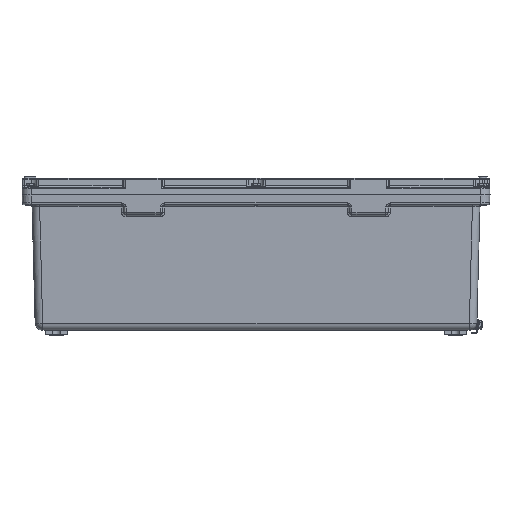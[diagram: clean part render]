
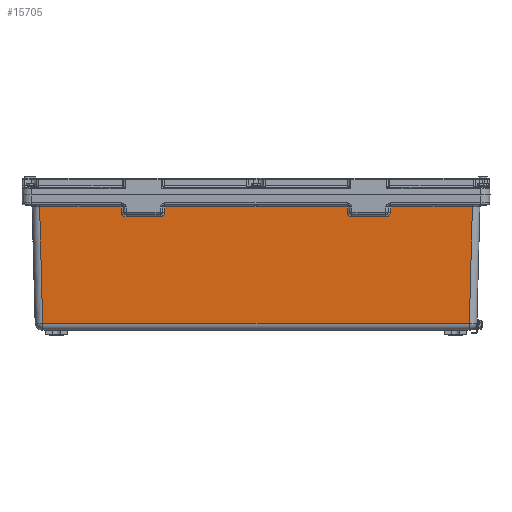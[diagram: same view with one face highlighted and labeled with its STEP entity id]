
A CAD part, left-side view. The second image highlights one B-rep face of the part: STEP entity #15705.
In plain terms, the highlighted planar face has unit normal (-1, 0, -0.026).
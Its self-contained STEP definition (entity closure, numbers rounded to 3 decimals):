
#13645=CARTESIAN_POINT('',(-297.662,-287.665,-12.921));
#13646=VERTEX_POINT('',#13645);
#13654=CARTESIAN_POINT('',(-293.62,-283.624,-167.262));
#13655=VERTEX_POINT('',#13654);
#13656=CARTESIAN_POINT('',(-297.662,-287.665,-12.921));
#13657=DIRECTION('',(0.026,0.026,-0.999));
#13658=VECTOR('',#13657,154.446);
#13659=LINE('',#13656,#13658);
#13660=EDGE_CURVE('',#13646,#13655,#13659,.T.);
#13680=CARTESIAN_POINT('',(-297.662,287.665,-12.921));
#13681=VERTEX_POINT('',#13680);
#13697=CARTESIAN_POINT('',(-293.62,283.624,-167.262));
#13698=VERTEX_POINT('',#13697);
#13706=CARTESIAN_POINT('',(-293.62,283.624,-167.262));
#13707=DIRECTION('',(-0.026,0.026,0.999));
#13708=VECTOR('',#13707,154.446);
#13709=LINE('',#13706,#13708);
#13710=EDGE_CURVE('',#13698,#13681,#13709,.T.);
#13773=CARTESIAN_POINT('',(-293.62,-283.624,-167.262));
#13774=DIRECTION('',(0.0,1.0,0.0));
#13775=VECTOR('',#13774,567.247);
#13776=LINE('',#13773,#13775);
#13777=EDGE_CURVE('',#13655,#13698,#13776,.T.);
#14932=CARTESIAN_POINT('',(-297.662,-178.902,-12.921));
#14933=VERTEX_POINT('',#14932);
#14943=CARTESIAN_POINT('',(-297.662,-178.902,-12.921));
#14944=DIRECTION('',(0.0,-1.0,0.0));
#14945=VECTOR('',#14944,108.763);
#14946=LINE('',#14943,#14945);
#14947=EDGE_CURVE('',#14933,#13646,#14946,.T.);
#14996=CARTESIAN_POINT('',(-297.662,-121.098,-12.921));
#14997=VERTEX_POINT('',#14996);
#15110=CARTESIAN_POINT('',(-297.471,-178.711,-20.199));
#15111=VERTEX_POINT('',#15110);
#15119=CARTESIAN_POINT('',(-297.471,-178.711,-20.199));
#15120=DIRECTION('',(-0.026,-0.026,0.999));
#15121=VECTOR('',#15120,7.282);
#15122=LINE('',#15119,#15121);
#15123=EDGE_CURVE('',#15111,#14933,#15122,.T.);
#15161=CARTESIAN_POINT('',(-297.318,-172.715,-26.038));
#15162=VERTEX_POINT('',#15161);
#15170=CARTESIAN_POINT('',(-297.475,-172.711,-20.038));
#15171=DIRECTION('',(-1.,0.,-0.026));
#15172=DIRECTION('',(0.019,-0.698,-0.716));
#15173=AXIS2_PLACEMENT_3D('',#15170,#15171,#15172);
#15174=ELLIPSE('',#15173,6.004,6.);
#15175=EDGE_CURVE('',#15162,#15111,#15174,.T.);
#15187=CARTESIAN_POINT('',(-297.318,-127.285,-26.038));
#15188=VERTEX_POINT('',#15187);
#15196=CARTESIAN_POINT('',(-297.318,-127.285,-26.038));
#15197=DIRECTION('',(0.0,-1.0,0.0));
#15198=VECTOR('',#15197,45.43);
#15199=LINE('',#15196,#15198);
#15200=EDGE_CURVE('',#15188,#15162,#15199,.T.);
#15238=CARTESIAN_POINT('',(-297.471,-121.289,-20.199));
#15239=VERTEX_POINT('',#15238);
#15247=CARTESIAN_POINT('',(-297.475,-127.289,-20.038));
#15248=DIRECTION('',(-1.,0.,-0.026));
#15249=DIRECTION('',(0.019,0.698,-0.716));
#15250=AXIS2_PLACEMENT_3D('',#15247,#15248,#15249);
#15251=ELLIPSE('',#15250,6.004,6.);
#15252=EDGE_CURVE('',#15239,#15188,#15251,.T.);
#15265=CARTESIAN_POINT('',(-297.662,-121.098,-12.921));
#15266=DIRECTION('',(0.026,-0.026,-0.999));
#15267=VECTOR('',#15266,7.282);
#15268=LINE('',#15265,#15267);
#15269=EDGE_CURVE('',#14997,#15239,#15268,.T.);
#15615=CARTESIAN_POINT('',(-297.662,178.902,-12.921));
#15616=VERTEX_POINT('',#15615);
#15631=CARTESIAN_POINT('',(-297.662,287.665,-12.921));
#15632=DIRECTION('',(0.0,-1.0,0.0));
#15633=VECTOR('',#15632,108.763);
#15634=LINE('',#15631,#15633);
#15635=EDGE_CURVE('',#13681,#15616,#15634,.T.);
#15640=CARTESIAN_POINT('',(-297.738,-5.5,-10.0));
#15641=DIRECTION('',(-1.,0.,-0.026));
#15642=DIRECTION('',(0.0,1.0,0.0));
#15643=AXIS2_PLACEMENT_3D('',#15640,#15641,#15642);
#15644=PLANE('',#15643);
#15645=CARTESIAN_POINT('',(-297.474,121.286,-20.074));
#15646=VERTEX_POINT('',#15645);
#15647=CARTESIAN_POINT('',(-297.662,121.098,-12.921));
#15648=VERTEX_POINT('',#15647);
#15649=CARTESIAN_POINT('',(-297.474,121.286,-20.074));
#15650=DIRECTION('',(-0.026,-0.026,0.999));
#15651=VECTOR('',#15650,7.157);
#15652=LINE('',#15649,#15651);
#15653=EDGE_CURVE('',#15646,#15648,#15652,.T.);
#15654=ORIENTED_EDGE('',*,*,#15653,.F.);
#15655=CARTESIAN_POINT('',(-297.321,127.282,-25.913));
#15656=VERTEX_POINT('',#15655);
#15657=CARTESIAN_POINT('',(-297.479,127.286,-19.913));
#15658=DIRECTION('',(-1.,0.,-0.026));
#15659=DIRECTION('',(0.019,-0.698,-0.716));
#15660=AXIS2_PLACEMENT_3D('',#15657,#15658,#15659);
#15661=ELLIPSE('',#15660,6.004,6.);
#15662=EDGE_CURVE('',#15656,#15646,#15661,.T.);
#15663=ORIENTED_EDGE('',*,*,#15662,.F.);
#15664=CARTESIAN_POINT('',(-297.321,172.718,-25.913));
#15665=VERTEX_POINT('',#15664);
#15666=CARTESIAN_POINT('',(-297.321,172.718,-25.913));
#15667=DIRECTION('',(0.0,-1.0,0.0));
#15668=VECTOR('',#15667,45.437);
#15669=LINE('',#15666,#15668);
#15670=EDGE_CURVE('',#15665,#15656,#15669,.T.);
#15671=ORIENTED_EDGE('',*,*,#15670,.F.);
#15672=CARTESIAN_POINT('',(-297.474,178.714,-20.074));
#15673=VERTEX_POINT('',#15672);
#15674=CARTESIAN_POINT('',(-297.479,172.714,-19.913));
#15675=DIRECTION('',(-1.,0.,-0.026));
#15676=DIRECTION('',(0.019,0.698,-0.716));
#15677=AXIS2_PLACEMENT_3D('',#15674,#15675,#15676);
#15678=ELLIPSE('',#15677,6.004,6.);
#15679=EDGE_CURVE('',#15673,#15665,#15678,.T.);
#15680=ORIENTED_EDGE('',*,*,#15679,.F.);
#15681=CARTESIAN_POINT('',(-297.662,178.902,-12.921));
#15682=DIRECTION('',(0.026,-0.026,-0.999));
#15683=VECTOR('',#15682,7.157);
#15684=LINE('',#15681,#15683);
#15685=EDGE_CURVE('',#15616,#15673,#15684,.T.);
#15686=ORIENTED_EDGE('',*,*,#15685,.F.);
#15687=ORIENTED_EDGE('',*,*,#15635,.F.);
#15688=ORIENTED_EDGE('',*,*,#13710,.F.);
#15689=ORIENTED_EDGE('',*,*,#13777,.F.);
#15690=ORIENTED_EDGE('',*,*,#13660,.F.);
#15691=ORIENTED_EDGE('',*,*,#14947,.F.);
#15692=ORIENTED_EDGE('',*,*,#15123,.F.);
#15693=ORIENTED_EDGE('',*,*,#15175,.F.);
#15694=ORIENTED_EDGE('',*,*,#15200,.F.);
#15695=ORIENTED_EDGE('',*,*,#15252,.F.);
#15696=ORIENTED_EDGE('',*,*,#15269,.F.);
#15697=CARTESIAN_POINT('',(-297.662,121.098,-12.921));
#15698=DIRECTION('',(0.0,-1.0,0.0));
#15699=VECTOR('',#15698,242.197);
#15700=LINE('',#15697,#15699);
#15701=EDGE_CURVE('',#15648,#14997,#15700,.T.);
#15702=ORIENTED_EDGE('',*,*,#15701,.F.);
#15703=EDGE_LOOP('',(#15654,#15663,#15671,#15680,#15686,#15687,#15688,#15689,#15690,#15691,#15692,#15693,#15694,#15695,#15696,#15702));
#15704=FACE_OUTER_BOUND('',#15703,.T.);
#15705=ADVANCED_FACE('',(#15704),#15644,.T.);
